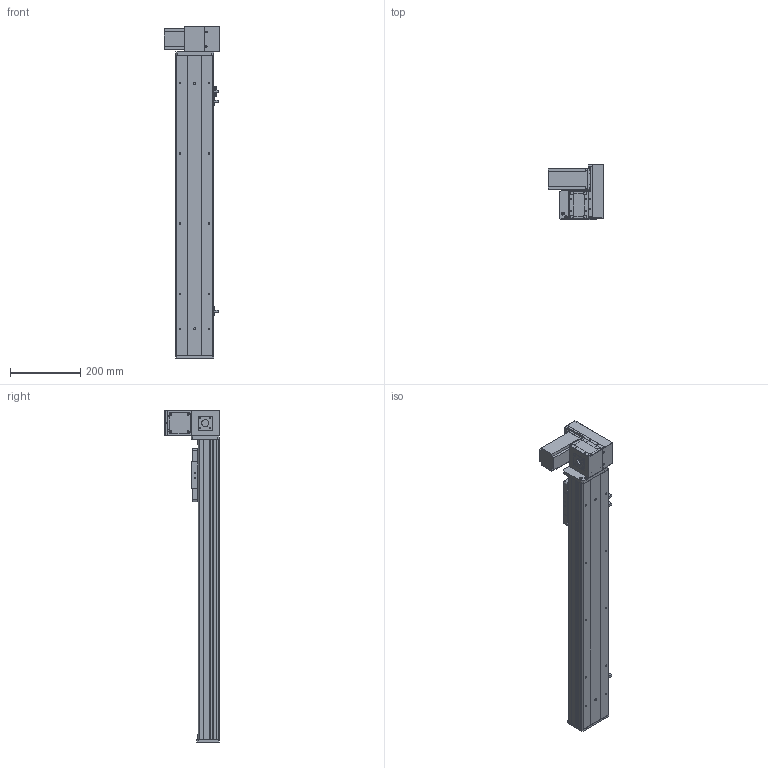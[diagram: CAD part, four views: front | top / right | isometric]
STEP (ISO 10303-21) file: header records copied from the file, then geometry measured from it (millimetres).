
FILE_DESCRIPTION (( 'STEP AP203' ), '1' );
FILE_NAME ('Y10CB-D90-S600-UR-P400W.STEP', '2020-02-16T03:23:52', ( '微软用户' ), ( '微软中国' ), 'SwSTEP 2.0', 'SolidWorks 2017', '' );
FILE_SCHEMA (( 'CONFIG_CONTROL_DESIGN' ));
Length unit declared in the file: millimetre
Products named in the file (18): Y10B--々湍喘謫眊--666; 10CB-詩湍-; Y10B-耜蚾蟀諉啣----; Y10CB- 掛极耜裔啣-毀---; 0CB-雄赽釱---; 00B-俋欶BM--; Y10C---詩湍揤啣; 0Cb-俋欶---; Y10CB-D90-S600-UR-P400W; 10CB9-掛极; Y10B-々湍喘謫眊楊擘啣--; 0B-萇儂楊擘啣; 10CB-耜裔; san松下电机400不带刹车----; Y135C-陔俋离換覜結え-; 0B-源倛裔啣; Y100-135俋离換覜ん--; 0B-埴倛裔啣
Assembly tree (21 placements, depth 2):
  Y10CB-D90-S600-UR-P400W
    0CB-雄赽釱---
    0Cb-俋欶---
    Y10B-々湍喘謫眊楊擘啣--
    0B-萇儂楊擘啣
    san松下电机400不带刹车----
    0B-源倛裔啣
    0B-埴倛裔啣
    10CB-詩湍-
    Y10CB- 掛极耜裔啣-毀---  x2
    Y10C---詩湍揤啣  x2
    10CB9-掛极
    10CB-耜裔
    Y135C-陔俋离換覜結え-
    Y100-135俋离換覜ん--  x3
    Y10B--々湍喘謫眊--666
    Y10B-耜蚾蟀諉啣----
    00B-俋欶BM--
Bounding box: 157 x 155.5 x 946 mm (x, y, z)
Volume: 2437881.1 mm3; surface area: 1059418.5 mm2
Topology: 21 solids, 21 shells, 966 faces, 2563 edges, 1682 vertices
Faces by surface type: plane 473, cylinder 469, cone 24
Entity records: 29912 total; most frequent: CARTESIAN_POINT 5173, DIRECTION 4862, ORIENTED_EDGE 4596, EDGE_CURVE 2298, AXIS2_PLACEMENT_3D 1741, VERTEX_POINT 1508, VECTOR 1380, LINE 1380
